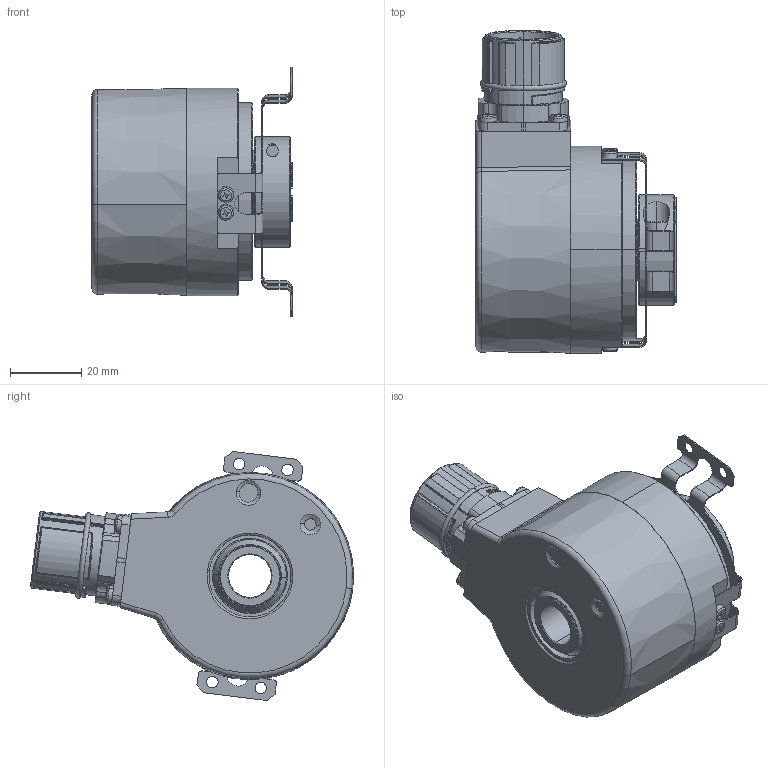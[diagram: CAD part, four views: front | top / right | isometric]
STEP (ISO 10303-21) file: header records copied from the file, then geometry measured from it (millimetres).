
FILE_DESCRIPTION (( 'STEP AP203' ), '1' );
FILE_NAME ('8.5834SIL.B4X4.XXXX.STEP', '2013-02-04T14:08:39', ( 'Hodot' ), ( '' ), 'SwSTEP 2.0', 'SolidWorks 2012', '' );
FILE_SCHEMA (( 'CONFIG_CONTROL_DESIGN' ));
Products named in the file (1): 8.5834SIL.B4X4.XXXX
Bounding box: 56 x 90.43 x 69.69 mm (x, y, z)
Volume: 82778.4 mm3; surface area: 57290.3 mm2
Topology: 31 solids, 32 shells, 1664 faces, 4028 edges, 2440 vertices
Faces by surface type: cylinder 661, plane 480, cone 233, torus 135, sphere 92, bspline 63
Entity records: 51768 total; most frequent: CARTESIAN_POINT 12951, DIRECTION 8642, ORIENTED_EDGE 7744, EDGE_CURVE 3872, AXIS2_PLACEMENT_3D 3548, VERTEX_POINT 2396, CIRCLE 1946, EDGE_LOOP 1908
